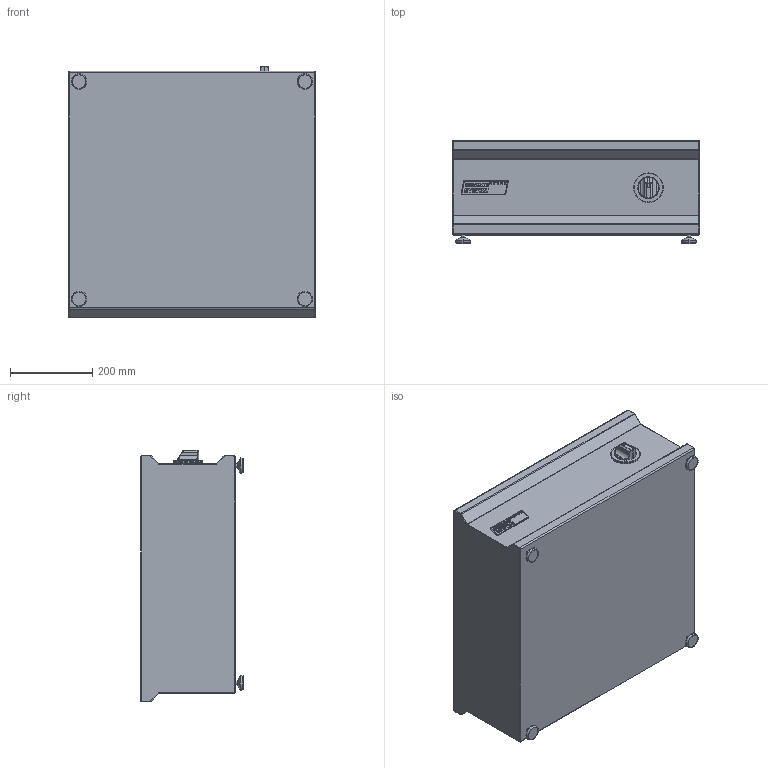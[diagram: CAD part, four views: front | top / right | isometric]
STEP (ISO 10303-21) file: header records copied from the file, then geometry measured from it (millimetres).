
FILE_DESCRIPTION (( 'STEP AP214' ), '1' );
FILE_NAME ('MS-I-Wok540.STEP', '2015-08-05T09:28:15', ( 'T. Weiss' ), ( 'Menusystem AG' ), 'SwSTEP 2.0', 'SolidWorks 2012', '' );
FILE_SCHEMA (( 'AUTOMOTIVE_DESIGN' ));
Length unit declared in the file: millimetre
Products named in the file (1): MS-I-Wok540
Bounding box: 600 x 250.01 x 612.44 mm (x, y, z)
Volume: 66861332.8 mm3; surface area: 1363766.4 mm2
Topology: 6 solids, 6 shells, 472 faces, 1212 edges, 772 vertices
Faces by surface type: plane 243, cylinder 108, bspline 79, cone 42
Entity records: 18441 total; most frequent: CARTESIAN_POINT 7187, ORIENTED_EDGE 2422, DIRECTION 2137, EDGE_CURVE 1211, LINE 789, VECTOR 789, VERTEX_POINT 772, AXIS2_PLACEMENT_3D 674
